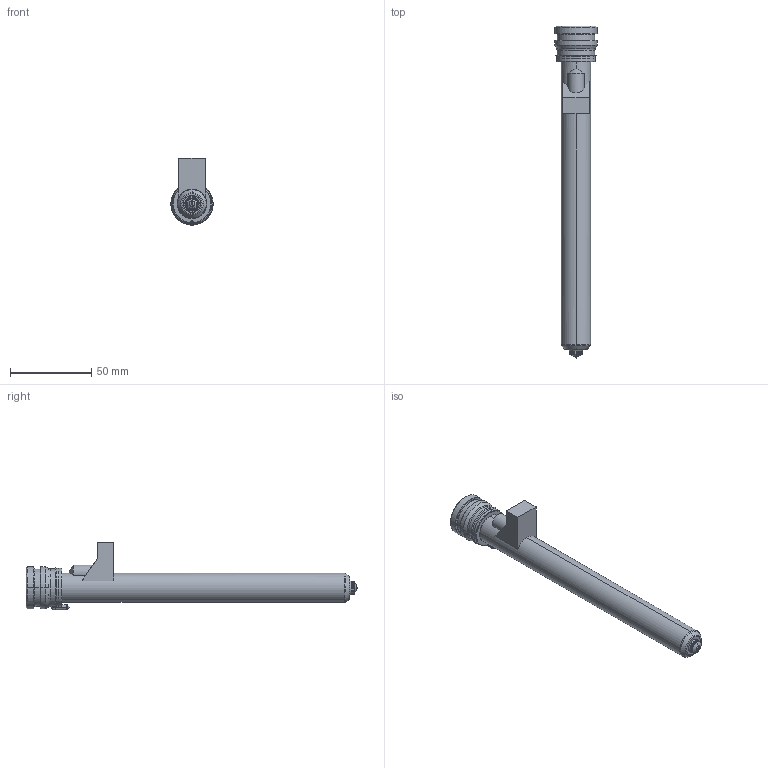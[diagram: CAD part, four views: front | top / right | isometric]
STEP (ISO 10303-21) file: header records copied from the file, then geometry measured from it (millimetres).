
FILE_DESCRIPTION((''),'2;1');
FILE_NAME('MPN-08-24-VS8-186-M','2026-02-05T13:30:16',('UPTIO'),('Thermoplay S.p.A.'),'CREO PARAMETRIC BY PTC INC, 2023494','CREO PARAMETRIC BY PTC INC, 2023494','');
FILE_SCHEMA(('CONFIG_CONTROL_DESIGN','SHAPE_APPEARANCE_LAYERS_GROUPS'));
Length unit declared in the file: millimetre
Products named in the file (1): MPN-08-24-VS8-186-M
Bounding box: 26 x 204 x 41.5 mm (x, y, z)
Volume: 38090.9 mm3; surface area: 51210.6 mm2
Topology: 2 solids, 3 shells, 527 faces, 1368 edges, 840 vertices
Faces by surface type: cylinder 174, plane 143, bspline 77, torus 60, cone 58, sphere 9, extrusion 6
Entity records: 27296 total; most frequent: CARTESIAN_POINT 11836, ORIENTED_EDGE 2718, DIRECTION 2485, EDGE_CURVE 1359, AXIS2_PLACEMENT_3D 971, VERTEX_POINT 840, EDGE_LOOP 557, VECTOR 543
